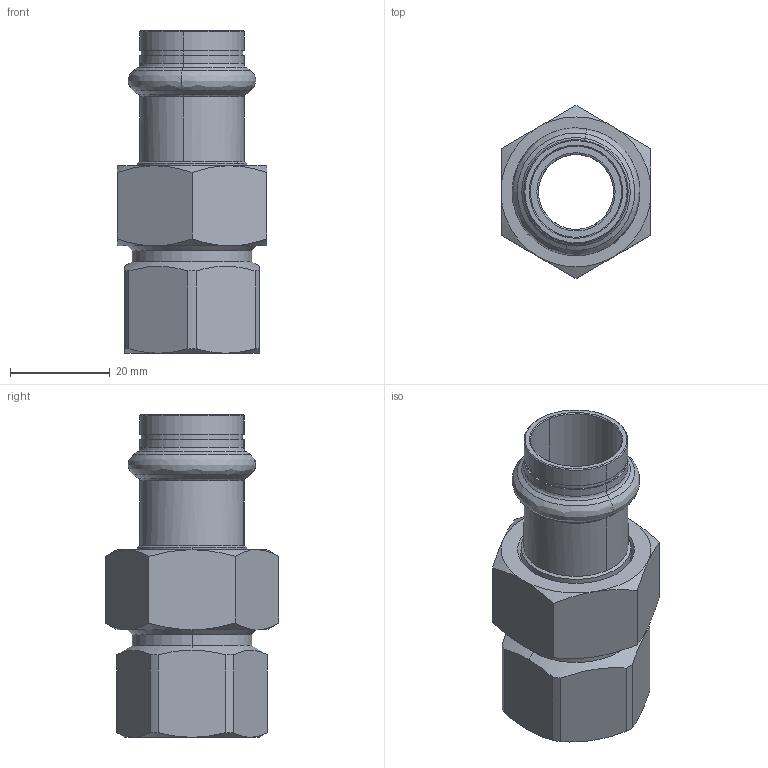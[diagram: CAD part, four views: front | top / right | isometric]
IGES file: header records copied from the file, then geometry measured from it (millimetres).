
Start section: Elysium IGES Interface
Global section: file name: C:\3d modellen sudo\C-Pr VP\SP8330GV\8330GVW1812.igs; native system: CoCreate Modeling 17.00A  17-Jun-2010; preprocessor: CoCreate IGES_3D V2.2; author: Unknown; organization: Unknown; date: 20130305.131540; units: millimetre
Bounding box: 30 x 34.64 x 64.5 mm (x, y, z)
Volume: 19402.5 mm3; surface area: 13111.5 mm2
Topology: 3 solids, 3 shells, 126 faces, 288 edges, 172 vertices
Faces by surface type: bspline 126
